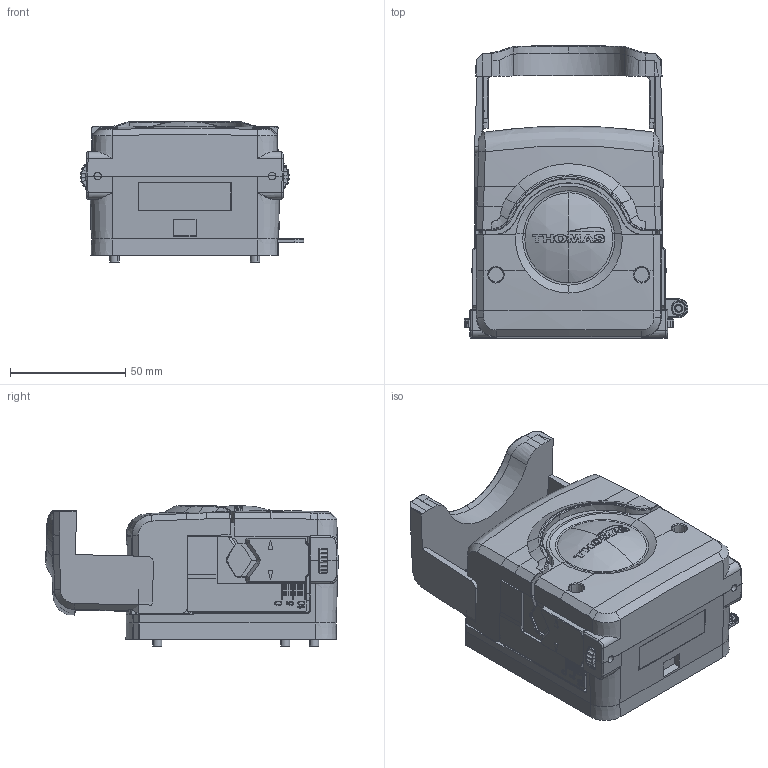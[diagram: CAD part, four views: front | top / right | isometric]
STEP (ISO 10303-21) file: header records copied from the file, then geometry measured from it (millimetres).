
FILE_DESCRIPTION (( 'STEP AP214' ), '1' );
FILE_NAME ('ETL500_PUMP HEAD.STEP', '2022-01-24T13:41:42', ( '' ), ( '' ), 'SwSTEP 2.0', 'SolidWorks 2020', '' );
FILE_SCHEMA (( 'AUTOMOTIVE_DESIGN' ));
Length unit declared in the file: millimetre
Products named in the file (1): ETL500_PUMP HEAD
Bounding box: 97.23 x 127.02 x 61.61 mm (x, y, z)
Volume: 409500.8 mm3; surface area: 76734.9 mm2
Topology: 2 solids, 30 shells, 2566 faces, 7036 edges, 4564 vertices
Faces by surface type: plane 1471, cone 411, bspline 358, cylinder 241, torus 65, sphere 20
Entity records: 126801 total; most frequent: CARTESIAN_POINT 37234, ORIENTED_EDGE 14048, DIRECTION 11369, EDGE_CURVE 7024, VERTEX_POINT 4560, AXIS2_PLACEMENT_3D 4043, LINE 3283, VECTOR 3283
